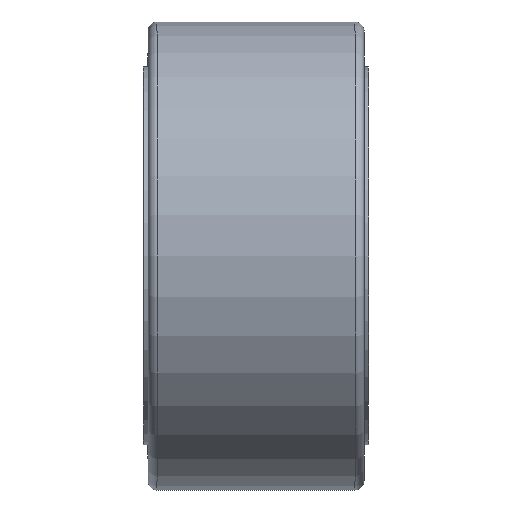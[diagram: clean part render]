
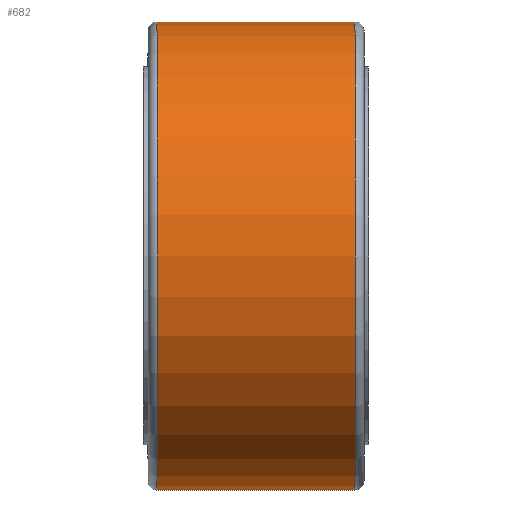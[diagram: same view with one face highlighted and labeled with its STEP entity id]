
A CAD part, front view. The second image highlights one B-rep face of the part: STEP entity #682.
In plain terms, the highlighted cylindrical face has radius 26 mm (diameter 52 mm), a full revolution.
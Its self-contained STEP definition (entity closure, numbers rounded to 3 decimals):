
#259=CIRCLE('',#866,26.);
#261=CIRCLE('',#869,26.);
#308=FACE_BOUND('',#428,.T.);
#352=FACE_OUTER_BOUND('',#427,.T.);
#427=EDGE_LOOP('',(#605));
#428=EDGE_LOOP('',(#606));
#485=VERTEX_POINT('',#1372);
#487=VERTEX_POINT('',#1377);
#529=EDGE_CURVE('',#485,#485,#259,.T.);
#531=EDGE_CURVE('',#487,#487,#261,.T.);
#605=ORIENTED_EDGE('',*,*,#531,.F.);
#606=ORIENTED_EDGE('',*,*,#529,.F.);
#645=CYLINDRICAL_SURFACE('',#868,26.);
#682=ADVANCED_FACE('',(#352,#308),#645,.T.);
#866=AXIS2_PLACEMENT_3D('',#1373,#1067,#1068);
#868=AXIS2_PLACEMENT_3D('',#1376,#1071,#1072);
#869=AXIS2_PLACEMENT_3D('',#1378,#1073,#1074);
#1067=DIRECTION('center_axis',(1.,0.,0.));
#1068=DIRECTION('ref_axis',(0.,-1.,0.));
#1071=DIRECTION('center_axis',(1.,0.,0.));
#1072=DIRECTION('ref_axis',(0.,1.,0.));
#1073=DIRECTION('center_axis',(-1.,0.,0.));
#1074=DIRECTION('ref_axis',(0.,-1.,0.));
#1372=CARTESIAN_POINT('',(11.,26.,0.));
#1373=CARTESIAN_POINT('Origin',(11.,0.,0.));
#1376=CARTESIAN_POINT('Origin',(0.,0.,
0.));
#1377=CARTESIAN_POINT('',(-11.,26.,0.));
#1378=CARTESIAN_POINT('Origin',(-11.,0.,0.));
